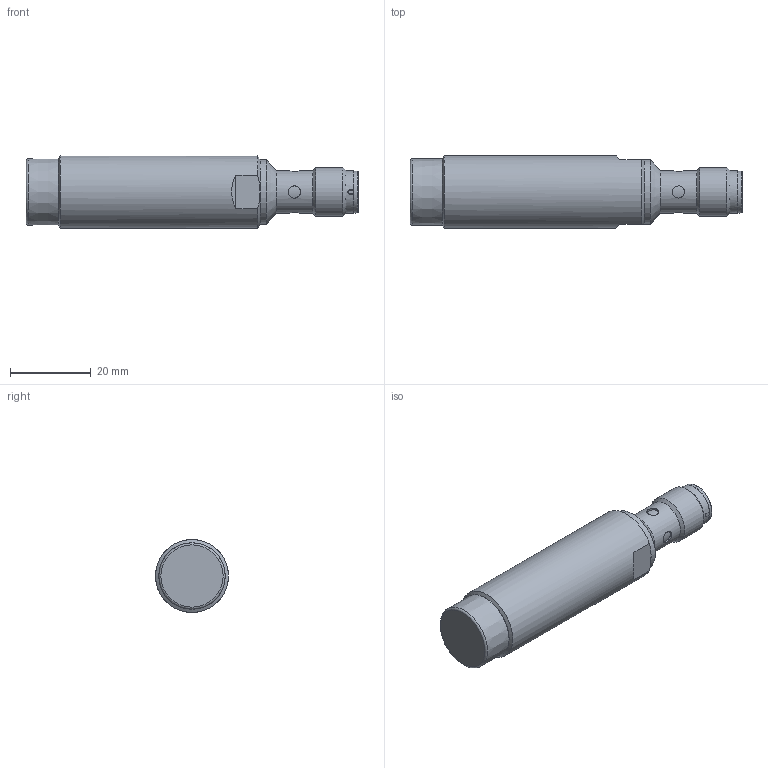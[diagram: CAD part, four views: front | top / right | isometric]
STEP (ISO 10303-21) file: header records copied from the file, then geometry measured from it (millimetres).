
FILE_DESCRIPTION(/* description */ (''),/* implementation_level */ '2;1');
FILE_NAME(/* name */ 'V:\AUTOCAD\_tegninger\Stepfiles - 3D\ICS\ICS18xxxxxxxxE1\ICS18L50N14xxM1E1.stp',/* time_stamp */ '2020-08-05T14:03:33+02:00',/* author */ ('TVB'),/* organization */ (''),/* preprocessor_version */ 'ST-DEVELOPER v18',/* originating_system */ 'Autodesk Inventor 2020',/* authorisation */ '');
FILE_SCHEMA (('AUTOMOTIVE_DESIGN { 1 0 10303 214 3 1 1 }'));
Length unit declared in the file: millimetre
Products named in the file (1): ICS18L50N14xxM1E1
Bounding box: 82 x 18 x 18 mm (x, y, z)
Volume: 16332.9 mm3; surface area: 5513.4 mm2
Topology: 1 solids, 1 shells, 84 faces, 237 edges, 156 vertices
Faces by surface type: cylinder 28, plane 28, cone 17, torus 6, sphere 4, bspline 1
Full cylindrical faces by diameter (mm): 1 x4, 3 x4, 8.157 x1, 9.37 x1, 9.5 x1, 10.5 x2, 12 x1, 16 x1, 18 x1
Entity records: 3952 total; most frequent: CARTESIAN_POINT 1672, ORIENTED_EDGE 466, DIRECTION 464, EDGE_CURVE 233, AXIS2_PLACEMENT_3D 192, VERTEX_POINT 156, CIRCLE 103, EDGE_LOOP 93
